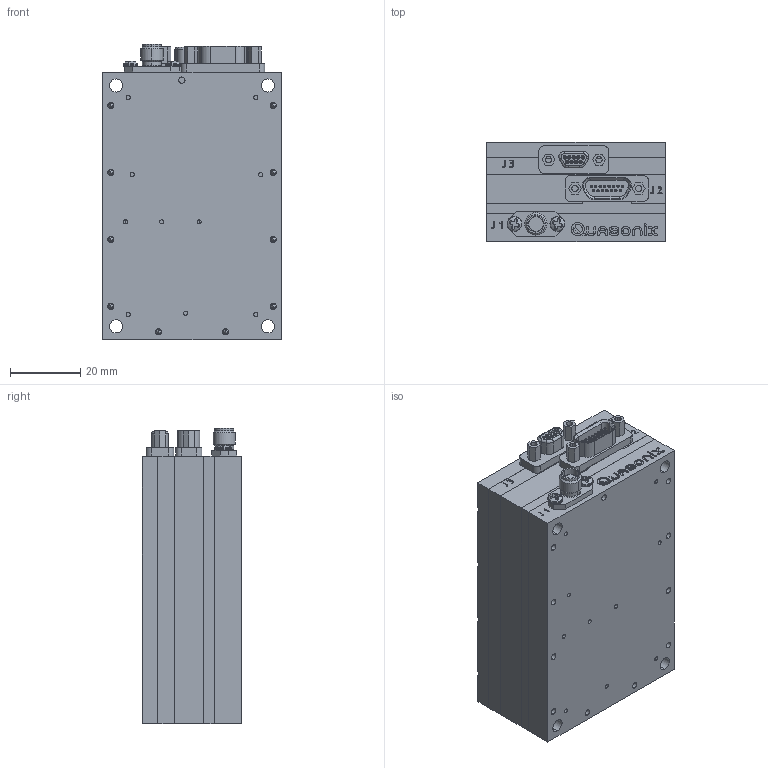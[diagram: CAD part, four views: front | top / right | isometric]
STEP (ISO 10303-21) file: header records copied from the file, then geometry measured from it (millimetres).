
FILE_DESCRIPTION (( 'STEP AP203' ), '1' );
FILE_NAME ('07AC_10-22-13.STEP', '2013-10-22T20:04:43', ( 'Quasonix' ), ( '' ), 'SwSTEP 2.0', 'SolidWorks 2012', '' );
FILE_SCHEMA (( 'CONFIG_CONTROL_DESIGN' ));
Length unit declared in the file: inch
Products named in the file (1): 07AC_10-22-13
Bounding box: 50.8 x 28.24 x 84.14 mm (x, y, z)
Surface area: 28167 mm2 (no closed solid volume)
Topology: 0 solids, 58 shells, 1000 faces, 3442 edges, 2479 vertices
Faces by surface type: plane 503, cylinder 228, cone 165, bspline 85, torus 15, sphere 4
Entity records: 39729 total; most frequent: CARTESIAN_POINT 10481, DIRECTION 5846, ORIENTED_EDGE 5797, EDGE_CURVE 3410, VERTEX_POINT 2479, AXIS2_PLACEMENT_3D 2114, VECTOR 1618, LINE 1618
